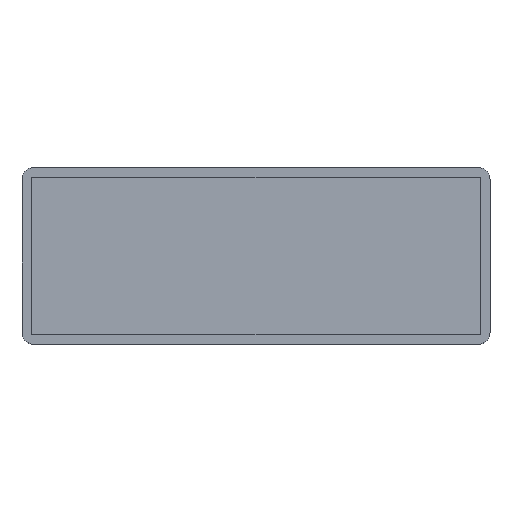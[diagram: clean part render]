
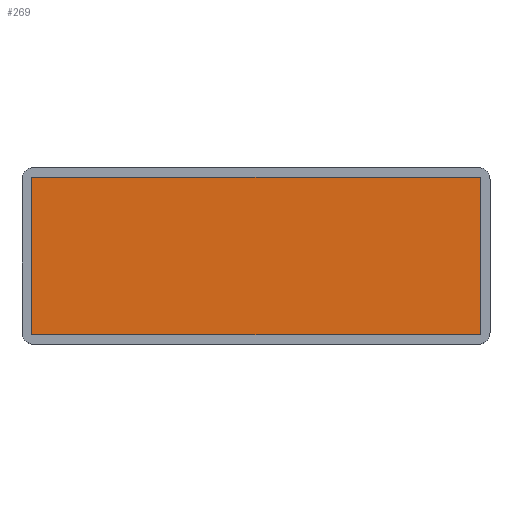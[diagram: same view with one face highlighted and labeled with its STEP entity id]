
A CAD part, top view. The second image highlights one B-rep face of the part: STEP entity #269.
In plain terms, the highlighted planar face has unit normal (0, 0, 1).
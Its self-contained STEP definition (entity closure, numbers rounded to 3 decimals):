
#23=PLANE('',#306);
#38=FACE_OUTER_BOUND('',#53,.T.);
#53=EDGE_LOOP('',(#230,#231,#232,#233));
#74=LINE('',#439,#102);
#78=LINE('',#446,#106);
#81=LINE('',#452,#109);
#83=LINE('',#455,#111);
#102=VECTOR('',#360,10.);
#106=VECTOR('',#366,10.);
#109=VECTOR('',#371,10.);
#111=VECTOR('',#375,10.);
#140=VERTEX_POINT('',#436);
#141=VERTEX_POINT('',#438);
#143=VERTEX_POINT('',#444);
#145=VERTEX_POINT('',#450);
#170=EDGE_CURVE('',#140,#141,#74,.T.);
#174=EDGE_CURVE('',#143,#140,#78,.T.);
#177=EDGE_CURVE('',#145,#143,#81,.T.);
#179=EDGE_CURVE('',#141,#145,#83,.T.);
#230=ORIENTED_EDGE('',*,*,#179,.F.);
#231=ORIENTED_EDGE('',*,*,#170,.F.);
#232=ORIENTED_EDGE('',*,*,#174,.F.);
#233=ORIENTED_EDGE('',*,*,#177,.F.);
#269=ADVANCED_FACE('',(#38),#23,.F.);
#306=AXIS2_PLACEMENT_3D('',#456,#376,#377);
#360=DIRECTION('',(-1.,0.,0.));
#366=DIRECTION('',(0.,-1.,0.));
#371=DIRECTION('',(1.,0.,0.));
#375=DIRECTION('',(0.,1.,0.));
#376=DIRECTION('center_axis',(0.,0.,-1.));
#377=DIRECTION('ref_axis',(-1.,0.,0.));
#436=CARTESIAN_POINT('',(91.,0.,-4.));
#438=CARTESIAN_POINT('',(0.,0.,-4.));
#439=CARTESIAN_POINT('',(0.,0.,-4.));
#444=CARTESIAN_POINT('',(91.,32.,-4.));
#446=CARTESIAN_POINT('',(91.,0.,-4.));
#450=CARTESIAN_POINT('',(0.,32.,-4.));
#452=CARTESIAN_POINT('',(91.,32.,-4.));
#455=CARTESIAN_POINT('',(0.,32.,-4.));
#456=CARTESIAN_POINT('Origin',(45.5,16.,-4.));
